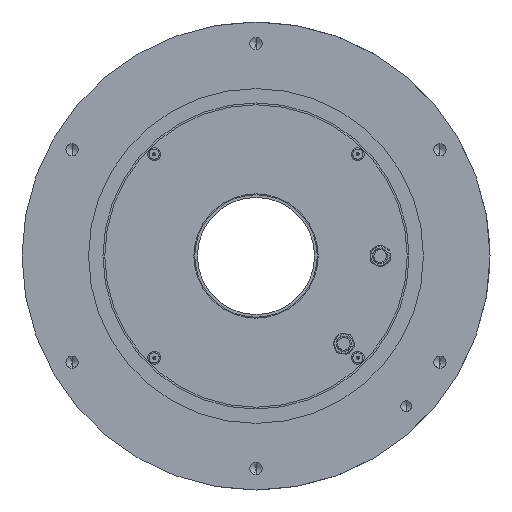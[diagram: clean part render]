
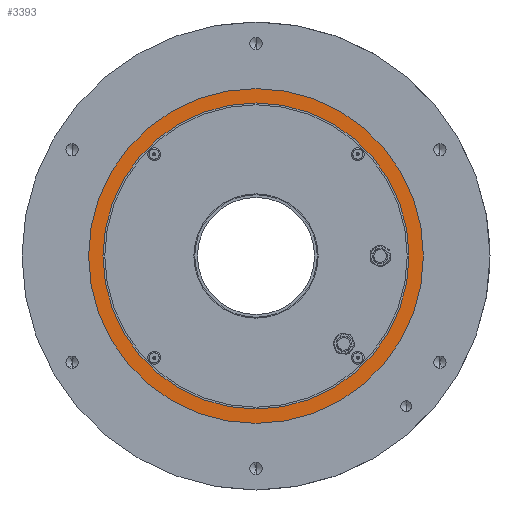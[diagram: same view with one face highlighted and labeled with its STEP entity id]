
A CAD part, front view. The second image highlights one B-rep face of the part: STEP entity #3393.
In plain terms, the highlighted planar face has unit normal (0, -1, 0).
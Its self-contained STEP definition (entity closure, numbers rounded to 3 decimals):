
#287 = DIRECTION ( 'NONE',  ( 0., 0., -1. ) ) ;
#503 = CARTESIAN_POINT ( 'NONE',  ( 0., -3., 85. ) ) ;
#2258 = ORIENTED_EDGE ( 'NONE', *, *, #8596, .T. ) ;
#3001 = ORIENTED_EDGE ( 'NONE', *, *, #4959, .F. ) ;
#3313 = DIRECTION ( 'NONE',  ( 0., 0., -1. ) ) ;
#3332 = FACE_BOUND ( 'NONE', #17003, .T. ) ;
#3393 = ADVANCED_FACE ( 'NONE', ( #3332, #19240 ), #5267, .T. ) ;
#3417 = VERTEX_POINT ( 'NONE', #17597 ) ;
#4488 = EDGE_CURVE ( 'NONE', #16420, #13927, #8961, .T. ) ;
#4959 = EDGE_CURVE ( 'NONE', #19218, #3417, #7668, .T. ) ;
#5267 = PLANE ( 'NONE',  #14674 ) ;
#5932 = DIRECTION ( 'NONE',  ( 0., -1., 0. ) ) ;
#6461 = DIRECTION ( 'NONE',  ( 0., -1., 0. ) ) ;
#6684 = DIRECTION ( 'NONE',  ( 0., -1., 0. ) ) ;
#7346 = EDGE_CURVE ( 'NONE', #3417, #19218, #13255, .T. ) ;
#7668 = CIRCLE ( 'NONE', #11916, 85. ) ;
#8011 = CARTESIAN_POINT ( 'NONE',  ( 0., -3., 0. ) ) ;
#8083 = CIRCLE ( 'NONE', #8742, 93. ) ;
#8596 = EDGE_CURVE ( 'NONE', #13927, #16420, #8083, .T. ) ;
#8742 = AXIS2_PLACEMENT_3D ( 'NONE', #15729, #6461, #12684 ) ;
#8961 = CIRCLE ( 'NONE', #10257, 93. ) ;
#9625 = DIRECTION ( 'NONE',  ( 0., -1., 0. ) ) ;
#10191 = CARTESIAN_POINT ( 'NONE',  ( 0., -3., -93. ) ) ;
#10257 = AXIS2_PLACEMENT_3D ( 'NONE', #10663, #15066, #15256 ) ;
#10663 = CARTESIAN_POINT ( 'NONE',  ( 0., -3., 0. ) ) ;
#10949 = CARTESIAN_POINT ( 'NONE',  ( 0., -3., 0. ) ) ;
#11316 = EDGE_LOOP ( 'NONE', ( #2258, #18574 ) ) ;
#11916 = AXIS2_PLACEMENT_3D ( 'NONE', #19911, #5932, #12160 ) ;
#12160 = DIRECTION ( 'NONE',  ( 0., 0., -1. ) ) ;
#12684 = DIRECTION ( 'NONE',  ( 0., 0., -1. ) ) ;
#13255 = CIRCLE ( 'NONE', #13887, 85. ) ;
#13887 = AXIS2_PLACEMENT_3D ( 'NONE', #10949, #9625, #3313 ) ;
#13927 = VERTEX_POINT ( 'NONE', #16388 ) ;
#14674 = AXIS2_PLACEMENT_3D ( 'NONE', #8011, #6684, #287 ) ;
#14885 = ORIENTED_EDGE ( 'NONE', *, *, #7346, .F. ) ;
#15066 = DIRECTION ( 'NONE',  ( 0., -1., 0. ) ) ;
#15256 = DIRECTION ( 'NONE',  ( 0., 0., -1. ) ) ;
#15729 = CARTESIAN_POINT ( 'NONE',  ( 0., -3., 0. ) ) ;
#16388 = CARTESIAN_POINT ( 'NONE',  ( 0., -3., 93. ) ) ;
#16420 = VERTEX_POINT ( 'NONE', #10191 ) ;
#17003 = EDGE_LOOP ( 'NONE', ( #14885, #3001 ) ) ;
#17597 = CARTESIAN_POINT ( 'NONE',  ( 0., -3., -85. ) ) ;
#18574 = ORIENTED_EDGE ( 'NONE', *, *, #4488, .T. ) ;
#19218 = VERTEX_POINT ( 'NONE', #503 ) ;
#19240 = FACE_OUTER_BOUND ( 'NONE', #11316, .T. ) ;
#19911 = CARTESIAN_POINT ( 'NONE',  ( 0., -3., 0. ) ) ;
